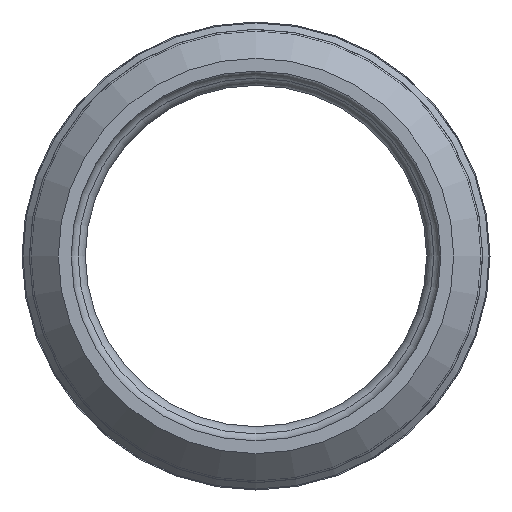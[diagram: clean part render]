
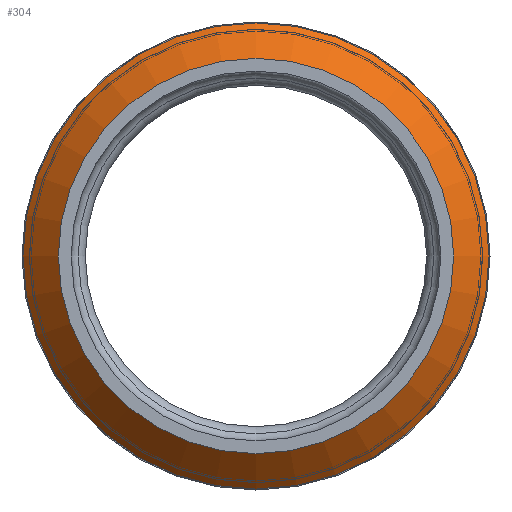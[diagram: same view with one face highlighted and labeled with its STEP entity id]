
A CAD part, front view. The second image highlights one B-rep face of the part: STEP entity #304.
In plain terms, the highlighted conical face has half-angle 45 degrees and reference radius 50.178 mm.
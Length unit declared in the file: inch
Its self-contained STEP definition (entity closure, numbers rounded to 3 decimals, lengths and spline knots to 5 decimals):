
#241=CARTESIAN_POINT('',(0.0,-6.55,-1.6755));
#242=VERTEX_POINT('',#241);
#243=CARTESIAN_POINT('',(0.,-6.55,1.6755));
#244=VERTEX_POINT('',#243);
#245=CARTESIAN_POINT('',(0.0,-6.55,0.0));
#246=DIRECTION('',(0.0,1.0,0.0));
#247=DIRECTION('',(0.0,0.0,-1.0));
#248=AXIS2_PLACEMENT_3D('',#245,#246,#247);
#249=CIRCLE('',#248,1.6755);
#250=EDGE_CURVE('',#242,#244,#249,.T.);
#252=CARTESIAN_POINT('',(0.0,-6.55,0.0));
#253=DIRECTION('',(0.0,1.0,0.0));
#254=DIRECTION('',(0.0,0.0,-1.0));
#255=AXIS2_PLACEMENT_3D('',#252,#253,#254);
#256=CIRCLE('',#255,1.6755);
#257=EDGE_CURVE('',#244,#242,#256,.T.);
#267=CARTESIAN_POINT('',(0.0,-6.25,-1.9755));
#268=VERTEX_POINT('',#267);
#269=CARTESIAN_POINT('',(0.,-6.25,1.9755));
#270=VERTEX_POINT('',#269);
#271=CARTESIAN_POINT('',(0.0,-6.25,0.0));
#272=DIRECTION('',(0.0,-1.0,0.0));
#273=DIRECTION('',(0.0,0.0,-1.0));
#274=AXIS2_PLACEMENT_3D('',#271,#272,#273);
#275=CIRCLE('',#274,1.9755);
#276=EDGE_CURVE('',#268,#270,#275,.T.);
#278=CARTESIAN_POINT('',(0.0,-6.25,0.0));
#279=DIRECTION('',(0.0,-1.0,0.0));
#280=DIRECTION('',(0.0,0.0,-1.0));
#281=AXIS2_PLACEMENT_3D('',#278,#279,#280);
#282=CIRCLE('',#281,1.9755);
#283=EDGE_CURVE('',#270,#268,#282,.T.);
#291=CARTESIAN_POINT('',(0.0,-6.25,0.0));
#292=DIRECTION('',(0.,1.0,0.));
#293=DIRECTION('',(0.0,0.0,-1.0));
#294=AXIS2_PLACEMENT_3D('',#291,#292,#293);
#295=CONICAL_SURFACE('',#294,1.9755,45.);
#296=ORIENTED_EDGE('',*,*,#276,.T.);
#297=ORIENTED_EDGE('',*,*,#283,.T.);
#298=EDGE_LOOP('',(#296,#297));
#299=FACE_OUTER_BOUND('',#298,.T.);
#300=ORIENTED_EDGE('',*,*,#250,.T.);
#301=ORIENTED_EDGE('',*,*,#257,.T.);
#302=EDGE_LOOP('',(#300,#301));
#303=FACE_BOUND('',#302,.T.);
#304=ADVANCED_FACE('',(#299,#303),#295,.T.);
